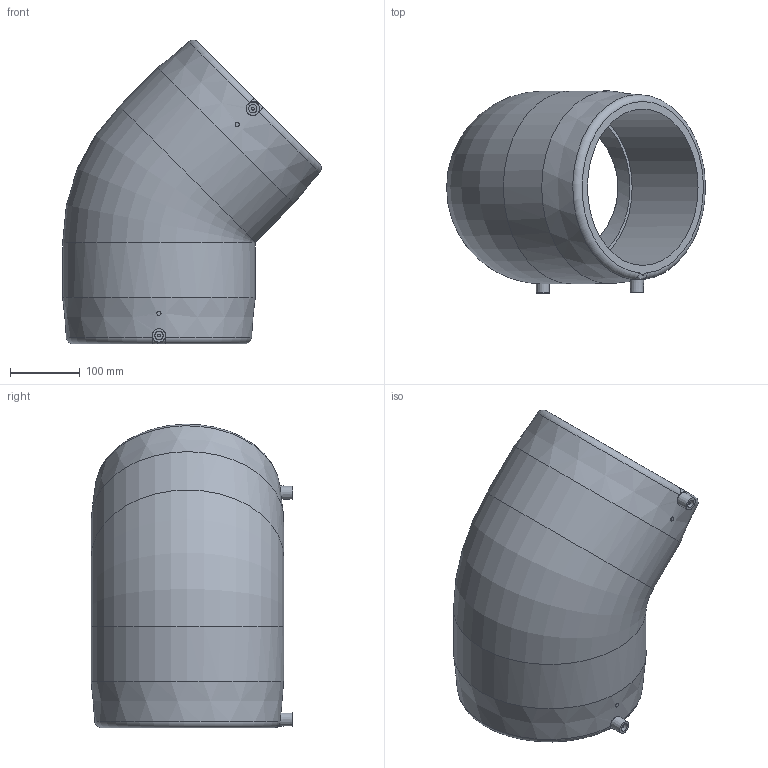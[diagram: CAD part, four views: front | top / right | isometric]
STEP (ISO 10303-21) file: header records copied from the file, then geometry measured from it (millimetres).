
FILE_DESCRIPTION(/* description */ ('Unknown'),/* implementation_level */ '2;1');
FILE_NAME(/* name */ 'GE4P225C',/* time_stamp */ '2020-12-03T12:34:33+01:00',/* author */ ('Unknown'),/* organization */ ('Unknown'),/* preprocessor_version */ 'ST-DEVELOPER v16.7',/* originating_system */ 'Solid Edge',/* authorisation */ 'Unknown');
FILE_SCHEMA (('AUTOMOTIVE_DESIGN {1 0 10303 214 3 1 1}'));
Length unit declared in the file: millimetre
Products named in the file (1): GE4P225C
Bounding box: 372.13 x 290 x 436.63 mm (x, y, z)
Volume: 8262874.9 mm3; surface area: 660083.2 mm2
Topology: 1 solids, 1 shells, 34 faces, 74 edges, 50 vertices
Faces by surface type: plane 12, cylinder 12, cone 4, torus 4, bspline 2
Full cylindrical faces by diameter (mm): 4 x2, 6 x2, 12 x2, 216 x2, 225 x2, 277 x2
Entity records: 1008 total; most frequent: CARTESIAN_POINT 370, DIRECTION 132, ORIENTED_EDGE 90, AXIS2_PLACEMENT_3D 66, EDGE_LOOP 61, FACE_BOUND 61, EDGE_CURVE 45, VERTEX_POINT 38
